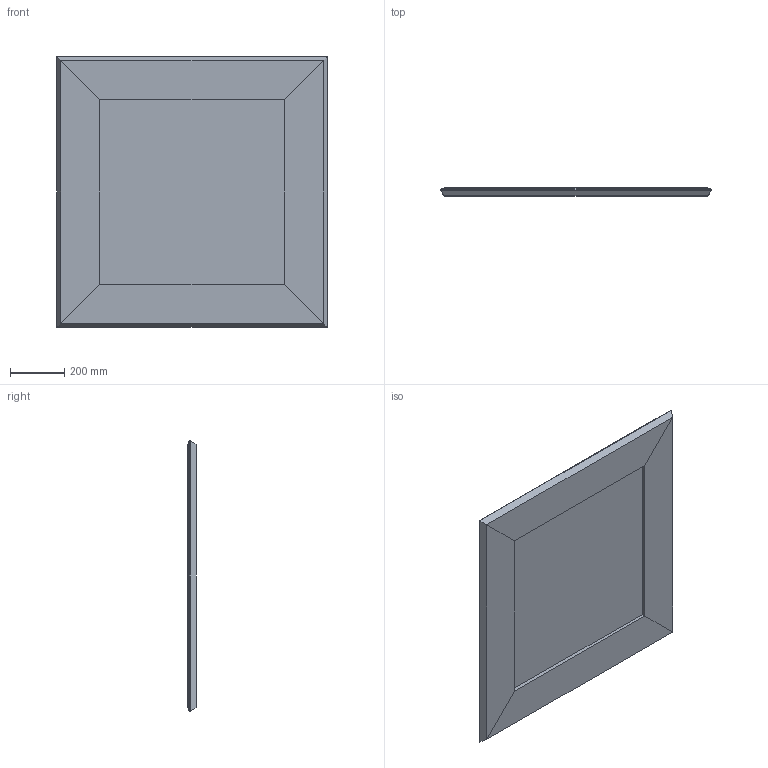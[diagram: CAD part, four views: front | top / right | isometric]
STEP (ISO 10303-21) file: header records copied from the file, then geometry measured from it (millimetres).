
FILE_DESCRIPTION (( 'STEP AP203' ), '1' );
FILE_NAME ('PRI01_Prisma_100x100.STEP', '2024-08-06T07:45:31', ( '' ), ( '' ), 'SwSTEP 2.0', 'SolidWorks 2022', '' );
FILE_SCHEMA (( 'CONFIG_CONTROL_DESIGN' ));
Length unit declared in the file: millimetre
Products named in the file (1): PRI01_Prisma_100x100
Bounding box: 1000 x 30 x 1000 mm (x, y, z)
Volume: 19474702.8 mm3; surface area: 2411253.6 mm2
Topology: 5 solids, 5 shells, 166 faces, 424 edges, 272 vertices
Faces by surface type: plane 98, cylinder 44, cone 24
Entity records: 5101 total; most frequent: DIRECTION 870, CARTESIAN_POINT 863, ORIENTED_EDGE 848, EDGE_CURVE 424, LINE 312, VECTOR 312, AXIS2_PLACEMENT_3D 279, VERTEX_POINT 272
